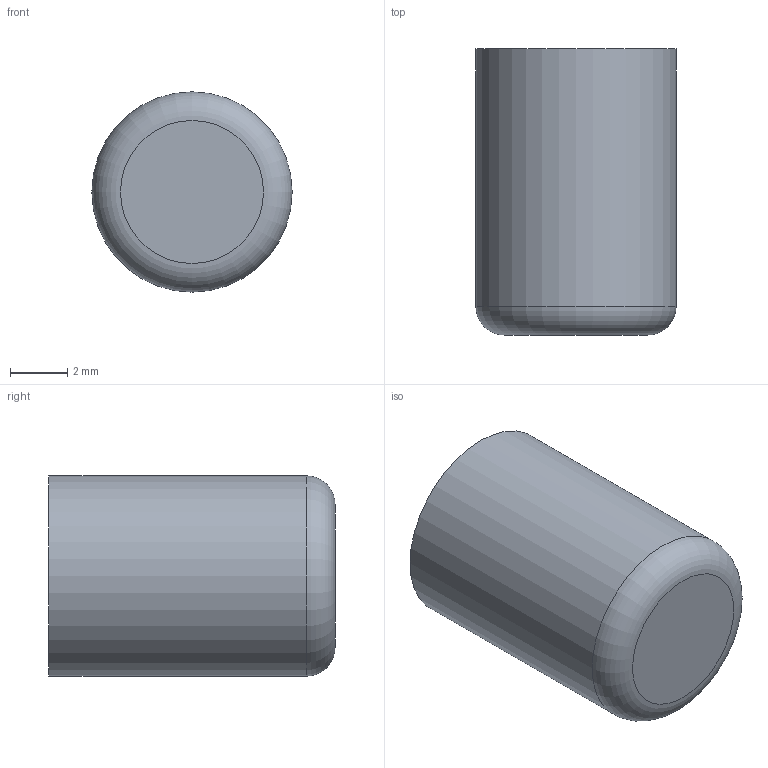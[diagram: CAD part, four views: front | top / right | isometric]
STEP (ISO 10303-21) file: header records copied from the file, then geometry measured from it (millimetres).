
FILE_DESCRIPTION(/* description */ (''),/* implementation_level */ '2;1');
FILE_NAME(/* name */ 'Knob_v3.tmp.step',/* time_stamp */ '2026-11-01T13:09:57+02:00',/* author */ (''),/* organization */ (''),/* preprocessor_version */ 'ST-DEVELOPER v20.2',/* originating_system */ 'Autodesk Translation Framework v15.15.0.0',/* authorisation */ '');
FILE_SCHEMA (('AUTOMOTIVE_DESIGN { 1 0 10303 214 3 1 1 }'));
Length unit declared in the file: millimetre
Products named in the file (1): Knob
Bounding box: 7 x 10 x 7 mm (x, y, z)
Volume: 380.4 mm3; surface area: 287 mm2
Topology: 1 solids, 1 shells, 4 faces, 6 edges, 4 vertices
Faces by surface type: plane 2, torus 1, cylinder 1
Full cylindrical faces by diameter (mm): 7 x1
Entity records: 128 total; most frequent: DIRECTION 21, CARTESIAN_POINT 15, ORIENTED_EDGE 12, AXIS2_PLACEMENT_3D 10, EDGE_CURVE 6, CIRCLE 5, FACE_OUTER_BOUND 4, EDGE_LOOP 4
